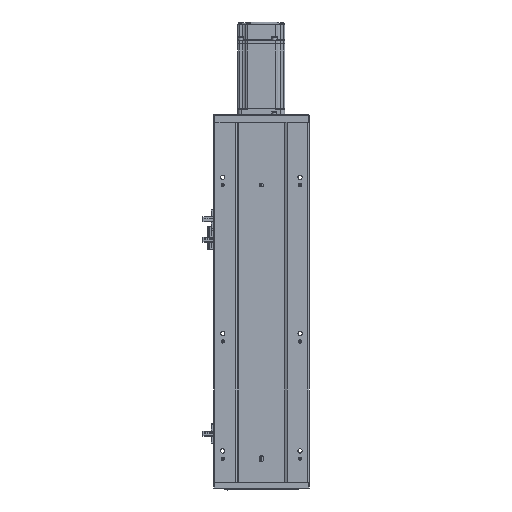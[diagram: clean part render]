
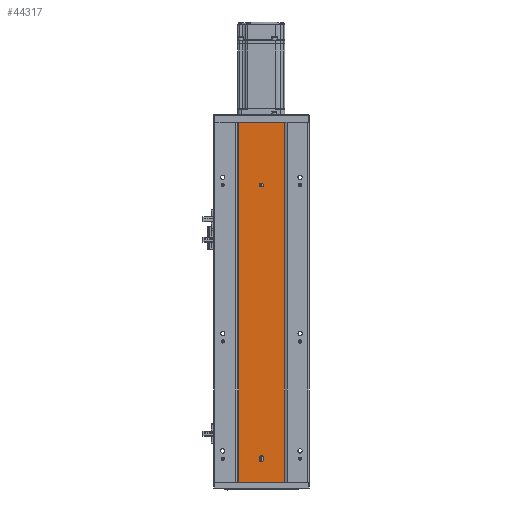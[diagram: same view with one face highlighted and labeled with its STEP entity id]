
A CAD part, front view. The second image highlights one B-rep face of the part: STEP entity #44317.
In plain terms, the highlighted planar face has unit normal (0, -1, 0).
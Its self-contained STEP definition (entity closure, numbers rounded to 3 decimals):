
#1291 = DIRECTION ( 'NONE',  ( 1., 0., 0. ) ) ;
#1327 = EDGE_CURVE ( 'NONE', #10680, #28045, #22214, .T. ) ;
#1708 = ORIENTED_EDGE ( 'NONE', *, *, #9881, .F. ) ;
#1781 = EDGE_CURVE ( 'NONE', #56513, #53307, #34153, .T. ) ;
#3078 = DIRECTION ( 'NONE',  ( 0., 1., 0. ) ) ;
#4194 = DIRECTION ( 'NONE',  ( 0., -1., 0. ) ) ;
#4279 = LINE ( 'NONE', #40383, #39468 ) ;
#5859 = ORIENTED_EDGE ( 'NONE', *, *, #62300, .F. ) ;
#6172 = VERTEX_POINT ( 'NONE', #35638 ) ;
#6912 = DIRECTION ( 'NONE',  ( 0., 0., -1. ) ) ;
#8388 = EDGE_CURVE ( 'NONE', #56513, #10345, #4279, .T. ) ;
#8463 = CARTESIAN_POINT ( 'NONE',  ( 132.498, 50.307, 28.5 ) ) ;
#8513 = CARTESIAN_POINT ( 'NONE',  ( 163.998, 50.307, 460. ) ) ;
#8855 = ORIENTED_EDGE ( 'NONE', *, *, #8388, .F. ) ;
#9781 = CIRCLE ( 'NONE', #20622, 2.5 ) ;
#9881 = EDGE_CURVE ( 'NONE', #6172, #25566, #27272, .T. ) ;
#10345 = VERTEX_POINT ( 'NONE', #12607 ) ;
#10680 = VERTEX_POINT ( 'NONE', #26201 ) ;
#11683 = VERTEX_POINT ( 'NONE', #61162 ) ;
#12607 = CARTESIAN_POINT ( 'NONE',  ( 163.998, 50.307, 460. ) ) ;
#13372 = ORIENTED_EDGE ( 'NONE', *, *, #1781, .T. ) ;
#13688 = EDGE_CURVE ( 'NONE', #47794, #26687, #9781, .T. ) ;
#13982 = FACE_BOUND ( 'NONE', #30141, .T. ) ;
#14918 = DIRECTION ( 'NONE',  ( 1., 0., 0. ) ) ;
#15318 = DIRECTION ( 'NONE',  ( 1., 0., 0. ) ) ;
#15760 = VECTOR ( 'NONE', #62383, 1000. ) ;
#16694 = DIRECTION ( 'NONE',  ( 0., 0., -1. ) ) ;
#18054 = PLANE ( 'NONE',  #48159 ) ;
#18486 = DIRECTION ( 'NONE',  ( 0., 0., 1. ) ) ;
#18927 = CARTESIAN_POINT ( 'NONE',  ( 134.998, 50.307, 382.5 ) ) ;
#20622 = AXIS2_PLACEMENT_3D ( 'NONE', #40208, #4194, #44718 ) ;
#22214 = LINE ( 'NONE', #32375, #62223 ) ;
#23592 = FACE_BOUND ( 'NONE', #38335, .T. ) ;
#23641 = DIRECTION ( 'NONE',  ( -1., 0., 0. ) ) ;
#23765 = EDGE_LOOP ( 'NONE', ( #52722, #24706, #8855, #13372 ) ) ;
#24706 = ORIENTED_EDGE ( 'NONE', *, *, #53345, .F. ) ;
#25566 = VERTEX_POINT ( 'NONE', #39799 ) ;
#26201 = CARTESIAN_POINT ( 'NONE',  ( 132.498, 50.307, 31.5 ) ) ;
#26687 = VERTEX_POINT ( 'NONE', #42783 ) ;
#27272 = LINE ( 'NONE', #64829, #47304 ) ;
#27456 = DIRECTION ( 'NONE',  ( 0., -1., 0. ) ) ;
#28033 = ORIENTED_EDGE ( 'NONE', *, *, #13688, .F. ) ;
#28045 = VERTEX_POINT ( 'NONE', #8463 ) ;
#29900 = CARTESIAN_POINT ( 'NONE',  ( 134.998, 50.307, 31.5 ) ) ;
#30141 = EDGE_LOOP ( 'NONE', ( #52894, #28033 ) ) ;
#32336 = CARTESIAN_POINT ( 'NONE',  ( 134.998, 50.307, 28.5 ) ) ;
#32375 = CARTESIAN_POINT ( 'NONE',  ( 132.498, 50.307, 31.5 ) ) ;
#33421 = CARTESIAN_POINT ( 'NONE',  ( 105.998, 50.307, 460. ) ) ;
#34153 = LINE ( 'NONE', #33421, #62993 ) ;
#34181 = LINE ( 'NONE', #51438, #15760 ) ;
#35181 = CIRCLE ( 'NONE', #62075, 2.5 ) ;
#35253 = DIRECTION ( 'NONE',  ( 0., -1., 0. ) ) ;
#35638 = CARTESIAN_POINT ( 'NONE',  ( 137.498, 50.307, 28.5 ) ) ;
#38335 = EDGE_LOOP ( 'NONE', ( #53840, #5859, #1708, #54967 ) ) ;
#39468 = VECTOR ( 'NONE', #15318, 1000. ) ;
#39799 = CARTESIAN_POINT ( 'NONE',  ( 137.498, 50.307, 31.5 ) ) ;
#40208 = CARTESIAN_POINT ( 'NONE',  ( 134.998, 50.307, 380. ) ) ;
#40383 = CARTESIAN_POINT ( 'NONE',  ( 0., 50.307, 460. ) ) ;
#40618 = EDGE_CURVE ( 'NONE', #28045, #6172, #35181, .T. ) ;
#41585 = CIRCLE ( 'NONE', #52355, 2.5 ) ;
#42626 = EDGE_CURVE ( 'NONE', #53307, #11683, #34181, .T. ) ;
#42783 = CARTESIAN_POINT ( 'NONE',  ( 134.998, 50.307, 377.5 ) ) ;
#44317 = ADVANCED_FACE ( 'NONE', ( #13982, #23592, #46791 ), #18054, .F. ) ;
#44718 = DIRECTION ( 'NONE',  ( 0., 0., -1. ) ) ;
#46791 = FACE_OUTER_BOUND ( 'NONE', #23765, .T. ) ;
#47304 = VECTOR ( 'NONE', #18486, 1000. ) ;
#47794 = VERTEX_POINT ( 'NONE', #18927 ) ;
#48159 = AXIS2_PLACEMENT_3D ( 'NONE', #64393, #3078, #23641 ) ;
#48452 = EDGE_CURVE ( 'NONE', #26687, #47794, #41585, .T. ) ;
#48937 = VECTOR ( 'NONE', #49450, 1000. ) ;
#49450 = DIRECTION ( 'NONE',  ( 0., 0., -1. ) ) ;
#49708 = LINE ( 'NONE', #8513, #48937 ) ;
#51438 = CARTESIAN_POINT ( 'NONE',  ( 0., 50.307, 0. ) ) ;
#52043 = CARTESIAN_POINT ( 'NONE',  ( 134.998, 50.307, 380. ) ) ;
#52355 = AXIS2_PLACEMENT_3D ( 'NONE', #52043, #62560, #16694 ) ;
#52722 = ORIENTED_EDGE ( 'NONE', *, *, #42626, .T. ) ;
#52894 = ORIENTED_EDGE ( 'NONE', *, *, #48452, .F. ) ;
#52925 = DIRECTION ( 'NONE',  ( 0., 0., -1. ) ) ;
#53307 = VERTEX_POINT ( 'NONE', #64008 ) ;
#53345 = EDGE_CURVE ( 'NONE', #10345, #11683, #49708, .T. ) ;
#53840 = ORIENTED_EDGE ( 'NONE', *, *, #1327, .F. ) ;
#54967 = ORIENTED_EDGE ( 'NONE', *, *, #40618, .F. ) ;
#56513 = VERTEX_POINT ( 'NONE', #57230 ) ;
#57230 = CARTESIAN_POINT ( 'NONE',  ( 105.998, 50.307, 460. ) ) ;
#61162 = CARTESIAN_POINT ( 'NONE',  ( 163.998, 50.307, 0. ) ) ;
#62075 = AXIS2_PLACEMENT_3D ( 'NONE', #32336, #27456, #1291 ) ;
#62223 = VECTOR ( 'NONE', #6912, 1000. ) ;
#62300 = EDGE_CURVE ( 'NONE', #25566, #10680, #66015, .T. ) ;
#62383 = DIRECTION ( 'NONE',  ( 1., 0., 0. ) ) ;
#62560 = DIRECTION ( 'NONE',  ( 0., -1., 0. ) ) ;
#62993 = VECTOR ( 'NONE', #52925, 1000. ) ;
#63748 = AXIS2_PLACEMENT_3D ( 'NONE', #29900, #35253, #14918 ) ;
#64008 = CARTESIAN_POINT ( 'NONE',  ( 105.998, 50.307, 0. ) ) ;
#64393 = CARTESIAN_POINT ( 'NONE',  ( 0., 50.307, 460. ) ) ;
#64829 = CARTESIAN_POINT ( 'NONE',  ( 137.498, 50.307, 31.5 ) ) ;
#66015 = CIRCLE ( 'NONE', #63748, 2.5 ) ;
